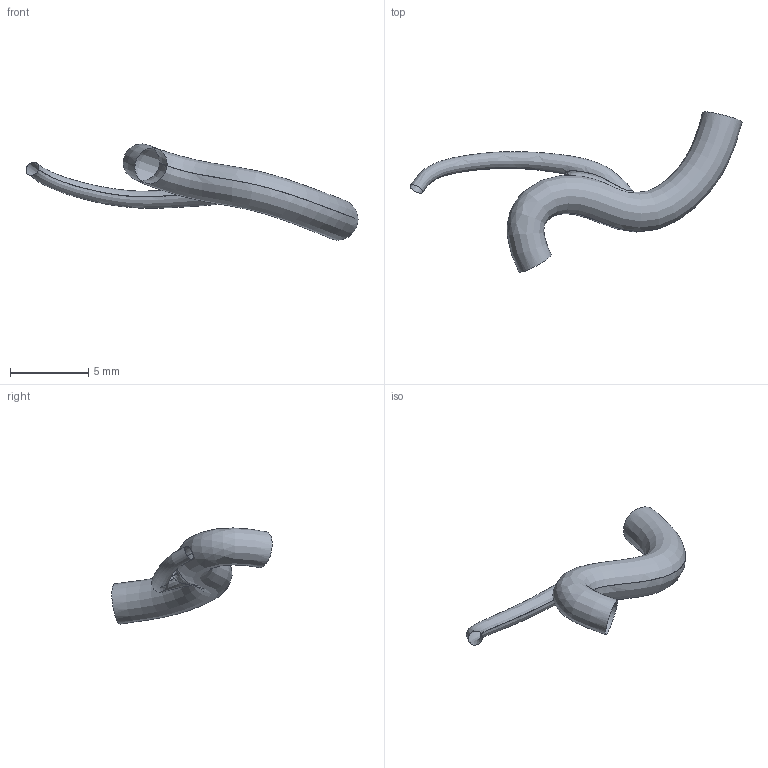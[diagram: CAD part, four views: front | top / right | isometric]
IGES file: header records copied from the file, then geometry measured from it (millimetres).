
Global section: file name: C:\Documents and Settings\Administrator\Desktop\FDA-Pig\Domestic RCA\Pig_000010\avc.es.igs; native system: Rhinoceros ( May 19 2006 ); preprocessor: Trout Lake IGES 012 May 19 2006; date: 111205.185510; units: centimetre
Bounding box: 21.23 x 10.25 x 6.15 mm (x, y, z)
Surface area: 201.4 mm2 (no closed solid volume)
Topology: 0 solids, 0 shells, 3 faces, 58 edges, 55 vertices
Faces by surface type: bspline 3
